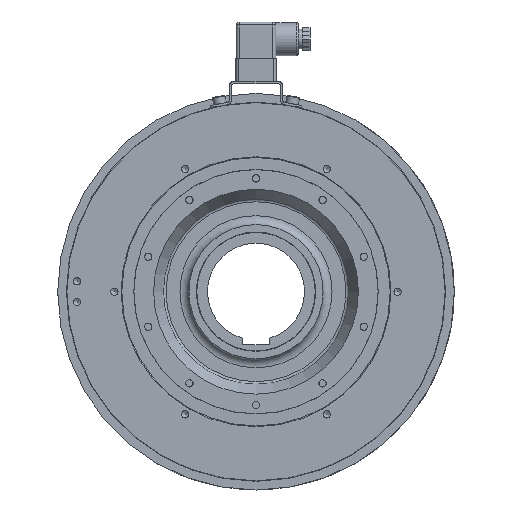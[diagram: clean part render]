
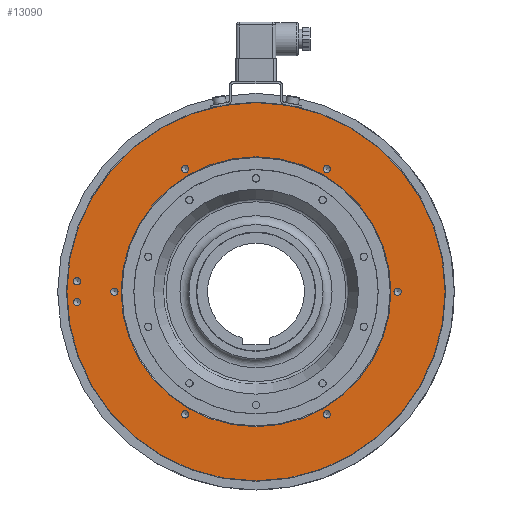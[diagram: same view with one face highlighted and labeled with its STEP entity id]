
A CAD part, left-side view. The second image highlights one B-rep face of the part: STEP entity #13090.
In plain terms, the highlighted planar face has unit normal (-1, 0, 0).
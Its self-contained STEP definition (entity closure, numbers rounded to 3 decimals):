
#2206=FACE_BOUND('',#3644,.T.);
#2207=FACE_BOUND('',#3645,.T.);
#2208=FACE_BOUND('',#3646,.T.);
#2209=FACE_BOUND('',#3647,.T.);
#2210=FACE_BOUND('',#3648,.T.);
#2211=FACE_BOUND('',#3649,.T.);
#2212=FACE_BOUND('',#3650,.T.);
#2213=FACE_BOUND('',#3651,.T.);
#2214=FACE_BOUND('',#3652,.T.);
#2818=FACE_OUTER_BOUND('',#3643,.T.);
#3643=EDGE_LOOP('',(#11326,#11327,#11328));
#3644=EDGE_LOOP('',(#11329,#11330));
#3645=EDGE_LOOP('',(#11331,#11332));
#3646=EDGE_LOOP('',(#11333,#11334));
#3647=EDGE_LOOP('',(#11335,#11336));
#3648=EDGE_LOOP('',(#11337,#11338));
#3649=EDGE_LOOP('',(#11339,#11340));
#3650=EDGE_LOOP('',(#11341,#11342));
#3651=EDGE_LOOP('',(#11343,#11344));
#3652=EDGE_LOOP('',(#11345));
#4614=CIRCLE('',#14573,126.85);
#4615=CIRCLE('',#14574,126.85);
#4692=CIRCLE('',#14724,2.459);
#4693=CIRCLE('',#14725,2.459);
#4696=CIRCLE('',#14730,2.459);
#4697=CIRCLE('',#14731,2.459);
#4702=CIRCLE('',#14739,2.459);
#4703=CIRCLE('',#14740,2.459);
#4706=CIRCLE('',#14745,2.459);
#4707=CIRCLE('',#14746,2.459);
#4710=CIRCLE('',#14751,2.459);
#4711=CIRCLE('',#14752,2.459);
#4714=CIRCLE('',#14757,2.459);
#4715=CIRCLE('',#14758,2.459);
#4718=CIRCLE('',#14763,2.459);
#4719=CIRCLE('',#14764,2.459);
#4722=CIRCLE('',#14769,2.459);
#4723=CIRCLE('',#14770,2.459);
#4726=CIRCLE('',#14774,90.5);
#4727=CIRCLE('',#14776,126.85);
#5756=VERTEX_POINT('',#22121);
#5757=VERTEX_POINT('',#22123);
#5758=VERTEX_POINT('',#22125);
#5908=VERTEX_POINT('',#22805);
#5909=VERTEX_POINT('',#22806);
#5912=VERTEX_POINT('',#22817);
#5913=VERTEX_POINT('',#22818);
#5919=VERTEX_POINT('',#22836);
#5920=VERTEX_POINT('',#22837);
#5924=VERTEX_POINT('',#22849);
#5925=VERTEX_POINT('',#22850);
#5929=VERTEX_POINT('',#22862);
#5930=VERTEX_POINT('',#22863);
#5934=VERTEX_POINT('',#22875);
#5935=VERTEX_POINT('',#22876);
#5939=VERTEX_POINT('',#22888);
#5940=VERTEX_POINT('',#22889);
#5944=VERTEX_POINT('',#22901);
#5945=VERTEX_POINT('',#22902);
#5948=VERTEX_POINT('',#22911);
#7500=EDGE_CURVE('',#5757,#5756,#4614,.T.);
#7501=EDGE_CURVE('',#5758,#5757,#4615,.T.);
#7719=EDGE_CURVE('',#5908,#5909,#4692,.T.);
#7720=EDGE_CURVE('',#5909,#5908,#4693,.T.);
#7725=EDGE_CURVE('',#5912,#5913,#4696,.T.);
#7726=EDGE_CURVE('',#5913,#5912,#4697,.T.);
#7734=EDGE_CURVE('',#5919,#5920,#4702,.T.);
#7735=EDGE_CURVE('',#5920,#5919,#4703,.T.);
#7740=EDGE_CURVE('',#5924,#5925,#4706,.T.);
#7741=EDGE_CURVE('',#5925,#5924,#4707,.T.);
#7746=EDGE_CURVE('',#5929,#5930,#4710,.T.);
#7747=EDGE_CURVE('',#5930,#5929,#4711,.T.);
#7752=EDGE_CURVE('',#5934,#5935,#4714,.T.);
#7753=EDGE_CURVE('',#5935,#5934,#4715,.T.);
#7758=EDGE_CURVE('',#5939,#5940,#4718,.T.);
#7759=EDGE_CURVE('',#5940,#5939,#4719,.T.);
#7764=EDGE_CURVE('',#5944,#5945,#4722,.T.);
#7765=EDGE_CURVE('',#5945,#5944,#4723,.T.);
#7770=EDGE_CURVE('',#5948,#5948,#4726,.T.);
#7771=EDGE_CURVE('',#5756,#5758,#4727,.T.);
#11326=ORIENTED_EDGE('',*,*,#7500,.T.);
#11327=ORIENTED_EDGE('',*,*,#7771,.T.);
#11328=ORIENTED_EDGE('',*,*,#7501,.T.);
#11329=ORIENTED_EDGE('',*,*,#7719,.T.);
#11330=ORIENTED_EDGE('',*,*,#7720,.T.);
#11331=ORIENTED_EDGE('',*,*,#7725,.T.);
#11332=ORIENTED_EDGE('',*,*,#7726,.T.);
#11333=ORIENTED_EDGE('',*,*,#7734,.T.);
#11334=ORIENTED_EDGE('',*,*,#7735,.T.);
#11335=ORIENTED_EDGE('',*,*,#7740,.T.);
#11336=ORIENTED_EDGE('',*,*,#7741,.T.);
#11337=ORIENTED_EDGE('',*,*,#7746,.T.);
#11338=ORIENTED_EDGE('',*,*,#7747,.T.);
#11339=ORIENTED_EDGE('',*,*,#7752,.T.);
#11340=ORIENTED_EDGE('',*,*,#7753,.T.);
#11341=ORIENTED_EDGE('',*,*,#7758,.T.);
#11342=ORIENTED_EDGE('',*,*,#7759,.T.);
#11343=ORIENTED_EDGE('',*,*,#7764,.T.);
#11344=ORIENTED_EDGE('',*,*,#7765,.T.);
#11345=ORIENTED_EDGE('',*,*,#7770,.F.);
#11912=PLANE('',#14775);
#13090=ADVANCED_FACE('',(#2818,#2206,#2207,#2208,#2209,#2210,#2211,#2212,
#2213,#2214),#11912,.T.);
#14573=AXIS2_PLACEMENT_3D('',#22124,#18152,#18153);
#14574=AXIS2_PLACEMENT_3D('',#22126,#18154,#18155);
#14724=AXIS2_PLACEMENT_3D('',#22807,#18563,#18564);
#14725=AXIS2_PLACEMENT_3D('',#22808,#18565,#18566);
#14730=AXIS2_PLACEMENT_3D('',#22819,#18577,#18578);
#14731=AXIS2_PLACEMENT_3D('',#22820,#18579,#18580);
#14739=AXIS2_PLACEMENT_3D('',#22838,#18598,#18599);
#14740=AXIS2_PLACEMENT_3D('',#22839,#18600,#18601);
#14745=AXIS2_PLACEMENT_3D('',#22851,#18612,#18613);
#14746=AXIS2_PLACEMENT_3D('',#22852,#18614,#18615);
#14751=AXIS2_PLACEMENT_3D('',#22864,#18626,#18627);
#14752=AXIS2_PLACEMENT_3D('',#22865,#18628,#18629);
#14757=AXIS2_PLACEMENT_3D('',#22877,#18640,#18641);
#14758=AXIS2_PLACEMENT_3D('',#22878,#18642,#18643);
#14763=AXIS2_PLACEMENT_3D('',#22890,#18654,#18655);
#14764=AXIS2_PLACEMENT_3D('',#22891,#18656,#18657);
#14769=AXIS2_PLACEMENT_3D('',#22903,#18668,#18669);
#14770=AXIS2_PLACEMENT_3D('',#22904,#18670,#18671);
#14774=AXIS2_PLACEMENT_3D('',#22913,#18680,#18681);
#14775=AXIS2_PLACEMENT_3D('',#22914,#18682,#18683);
#14776=AXIS2_PLACEMENT_3D('',#22915,#18684,#18685);
#18152=DIRECTION('center_axis',(-1.,0.,0.));
#18153=DIRECTION('ref_axis',(0.,1.,0.));
#18154=DIRECTION('center_axis',(-1.,0.,0.));
#18155=DIRECTION('ref_axis',(0.,1.,0.));
#18563=DIRECTION('center_axis',(1.,0.,0.));
#18564=DIRECTION('ref_axis',(0.,0.,
1.));
#18565=DIRECTION('center_axis',(1.,0.,0.));
#18566=DIRECTION('ref_axis',(0.,0.,
1.));
#18577=DIRECTION('center_axis',(1.,0.,0.));
#18578=DIRECTION('ref_axis',(0.,0.,
1.));
#18579=DIRECTION('center_axis',(1.,0.,0.));
#18580=DIRECTION('ref_axis',(0.,0.,
1.));
#18598=DIRECTION('center_axis',(1.,0.,0.));
#18599=DIRECTION('ref_axis',(0.,0.,
1.));
#18600=DIRECTION('center_axis',(1.,0.,0.));
#18601=DIRECTION('ref_axis',(0.,0.,
1.));
#18612=DIRECTION('center_axis',(1.,0.,0.));
#18613=DIRECTION('ref_axis',(0.,0.,
1.));
#18614=DIRECTION('center_axis',(1.,0.,0.));
#18615=DIRECTION('ref_axis',(0.,0.,
1.));
#18626=DIRECTION('center_axis',(1.,0.,0.));
#18627=DIRECTION('ref_axis',(0.,0.,
1.));
#18628=DIRECTION('center_axis',(1.,0.,0.));
#18629=DIRECTION('ref_axis',(0.,0.,
1.));
#18640=DIRECTION('center_axis',(1.,0.,0.));
#18641=DIRECTION('ref_axis',(0.,0.,
1.));
#18642=DIRECTION('center_axis',(1.,0.,0.));
#18643=DIRECTION('ref_axis',(0.,0.,
1.));
#18654=DIRECTION('center_axis',(1.,0.,0.));
#18655=DIRECTION('ref_axis',(0.,0.,
1.));
#18656=DIRECTION('center_axis',(1.,0.,0.));
#18657=DIRECTION('ref_axis',(0.,0.,
1.));
#18668=DIRECTION('center_axis',(1.,0.,0.));
#18669=DIRECTION('ref_axis',(0.,0.,
1.));
#18670=DIRECTION('center_axis',(1.,0.,0.));
#18671=DIRECTION('ref_axis',(0.,0.,
1.));
#18680=DIRECTION('center_axis',(-1.,0.,0.));
#18681=DIRECTION('ref_axis',(0.,-1.,0.));
#18682=DIRECTION('center_axis',(-1.,0.,0.));
#18683=DIRECTION('ref_axis',(0.,0.,
1.));
#18684=DIRECTION('center_axis',(-1.,0.,0.));
#18685=DIRECTION('ref_axis',(0.,1.,0.));
#22121=CARTESIAN_POINT('',(-19.,-126.85,0.));
#22123=CARTESIAN_POINT('',(-19.,126.85,0.));
#22124=CARTESIAN_POINT('Origin',(-19.,0.,0.));
#22125=CARTESIAN_POINT('',(-19.,-22.027,124.923));
#22126=CARTESIAN_POINT('Origin',(-19.,0.,0.));
#22805=CARTESIAN_POINT('',(-19.,120.,9.459));
#22806=CARTESIAN_POINT('',(-19.,120.,4.542));
#22807=CARTESIAN_POINT('Origin',(-19.,120.,7.));
#22808=CARTESIAN_POINT('Origin',(-19.,120.,7.));
#22817=CARTESIAN_POINT('',(-19.,120.,-4.542));
#22818=CARTESIAN_POINT('',(-19.,120.,-9.459));
#22819=CARTESIAN_POINT('Origin',(-19.,120.,-7.));
#22820=CARTESIAN_POINT('Origin',(-19.,120.,-7.));
#22836=CARTESIAN_POINT('',(-19.,47.5,84.731));
#22837=CARTESIAN_POINT('',(-19.,47.5,79.814));
#22838=CARTESIAN_POINT('Origin',(-19.,47.5,82.272));
#22839=CARTESIAN_POINT('Origin',(-19.,47.5,82.272));
#22849=CARTESIAN_POINT('',(-19.,-47.5,84.731));
#22850=CARTESIAN_POINT('',(-19.,-47.5,79.814));
#22851=CARTESIAN_POINT('Origin',(-19.,-47.5,82.272));
#22852=CARTESIAN_POINT('Origin',(-19.,-47.5,82.272));
#22862=CARTESIAN_POINT('',(-19.,-95.,2.458));
#22863=CARTESIAN_POINT('',(-19.,-95.,-2.459));
#22864=CARTESIAN_POINT('Origin',(-19.,-95.,0.));
#22865=CARTESIAN_POINT('Origin',(-19.,-95.,0.));
#22875=CARTESIAN_POINT('',(-19.,-47.5,-79.814));
#22876=CARTESIAN_POINT('',(-19.,-47.5,-84.731));
#22877=CARTESIAN_POINT('Origin',(-19.,-47.5,-82.272));
#22878=CARTESIAN_POINT('Origin',(-19.,-47.5,-82.272));
#22888=CARTESIAN_POINT('',(-19.,47.5,-79.814));
#22889=CARTESIAN_POINT('',(-19.,47.5,-84.731));
#22890=CARTESIAN_POINT('Origin',(-19.,47.5,-82.272));
#22891=CARTESIAN_POINT('Origin',(-19.,47.5,-82.272));
#22901=CARTESIAN_POINT('',(-19.,95.,2.459));
#22902=CARTESIAN_POINT('',(-19.,95.,-2.459));
#22903=CARTESIAN_POINT('Origin',(-19.,95.,0.));
#22904=CARTESIAN_POINT('Origin',(-19.,95.,0.));
#22911=CARTESIAN_POINT('',(-19.,90.5,0.));
#22913=CARTESIAN_POINT('Origin',(-19.,0.,0.));
#22914=CARTESIAN_POINT('Origin',(-19.,108.425,0.));
#22915=CARTESIAN_POINT('Origin',(-19.,0.,0.));
